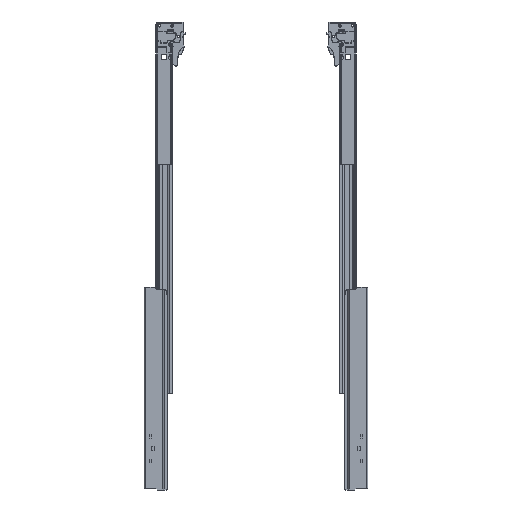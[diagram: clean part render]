
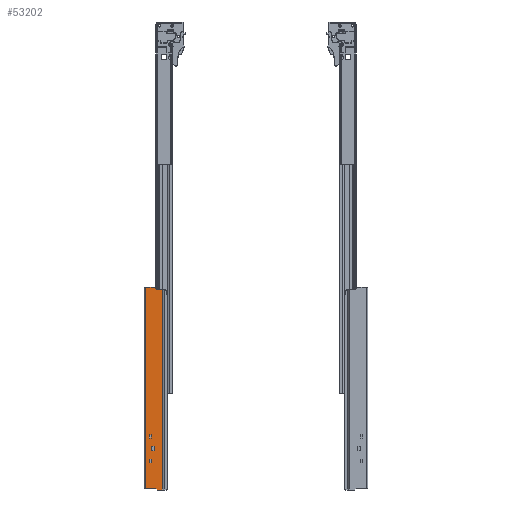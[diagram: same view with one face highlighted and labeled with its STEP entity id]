
A CAD part, front view. The second image highlights one B-rep face of the part: STEP entity #53202.
In plain terms, the highlighted planar face has unit normal (0, -1, 0).
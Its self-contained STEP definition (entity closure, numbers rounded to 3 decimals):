
#4365=FACE_BOUND('',#12797,.T.);
#4366=FACE_BOUND('',#12798,.T.);
#4367=FACE_BOUND('',#12799,.T.);
#6057=CIRCLE('',#56688,2.);
#6058=CIRCLE('',#56689,2.);
#9818=FACE_OUTER_BOUND('',#12796,.T.);
#12796=EDGE_LOOP('',(#33359,#33360,#33361,#33362,#33363,#33364,#33365,#33366,
#33367,#33368));
#12797=EDGE_LOOP('',(#33369,#33370,#33371,#33372));
#12798=EDGE_LOOP('',(#33373,#33374,#33375,#33376));
#12799=EDGE_LOOP('',(#33377,#33378,#33379,#33380));
#16511=LINE('',#77256,#18531);
#16515=LINE('',#77264,#18535);
#16518=LINE('',#77270,#18538);
#16521=LINE('',#77275,#18541);
#16523=LINE('',#77281,#18543);
#16527=LINE('',#77289,#18547);
#16530=LINE('',#77295,#18550);
#16533=LINE('',#77300,#18553);
#16535=LINE('',#77306,#18555);
#16539=LINE('',#77314,#18559);
#16542=LINE('',#77320,#18562);
#16545=LINE('',#77325,#18565);
#16547=LINE('',#77331,#18567);
#16562=LINE('',#77379,#18582);
#16570=LINE('',#77399,#18590);
#16571=LINE('',#77403,#18591);
#16572=LINE('',#77405,#18592);
#16573=LINE('',#77407,#18593);
#16574=LINE('',#77411,#18594);
#16575=LINE('',#77414,#18595);
#18531=VECTOR('',#62850,6.);
#18535=VECTOR('',#62856,3.5);
#18538=VECTOR('',#62861,6.);
#18541=VECTOR('',#62866,3.5);
#18543=VECTOR('',#62872,6.);
#18547=VECTOR('',#62878,3.5);
#18550=VECTOR('',#62883,6.);
#18553=VECTOR('',#62888,3.5);
#18555=VECTOR('',#62894,8.);
#18559=VECTOR('',#62900,5.);
#18562=VECTOR('',#62905,8.);
#18565=VECTOR('',#62910,5.);
#18567=VECTOR('',#62916,4.243);
#18582=VECTOR('',#62951,18.);
#18590=VECTOR('',#62971,360.);
#18591=VECTOR('',#62976,9.5);
#18592=VECTOR('',#62977,358.);
#18593=VECTOR('',#62978,9.672);
#18594=VECTOR('',#62981,5.414);
#18595=VECTOR('',#62984,14.172);
#20551=VERTEX_POINT('',#77254);
#20552=VERTEX_POINT('',#77255);
#20555=VERTEX_POINT('',#77263);
#20557=VERTEX_POINT('',#77269);
#20559=VERTEX_POINT('',#77279);
#20560=VERTEX_POINT('',#77280);
#20563=VERTEX_POINT('',#77288);
#20565=VERTEX_POINT('',#77294);
#20567=VERTEX_POINT('',#77304);
#20568=VERTEX_POINT('',#77305);
#20571=VERTEX_POINT('',#77313);
#20573=VERTEX_POINT('',#77319);
#20575=VERTEX_POINT('',#77329);
#20576=VERTEX_POINT('',#77330);
#20599=VERTEX_POINT('',#77378);
#20605=VERTEX_POINT('',#77398);
#20606=VERTEX_POINT('',#77402);
#20607=VERTEX_POINT('',#77404);
#20608=VERTEX_POINT('',#77406);
#20609=VERTEX_POINT('',#77408);
#20610=VERTEX_POINT('',#77410);
#20611=VERTEX_POINT('',#77412);
#25261=EDGE_CURVE('',#20551,#20552,#16511,.T.);
#25265=EDGE_CURVE('',#20552,#20555,#16515,.T.);
#25268=EDGE_CURVE('',#20555,#20557,#16518,.T.);
#25271=EDGE_CURVE('',#20557,#20551,#16521,.T.);
#25273=EDGE_CURVE('',#20559,#20560,#16523,.T.);
#25277=EDGE_CURVE('',#20560,#20563,#16527,.T.);
#25280=EDGE_CURVE('',#20563,#20565,#16530,.T.);
#25283=EDGE_CURVE('',#20565,#20559,#16533,.T.);
#25285=EDGE_CURVE('',#20567,#20568,#16535,.T.);
#25289=EDGE_CURVE('',#20568,#20571,#16539,.T.);
#25292=EDGE_CURVE('',#20571,#20573,#16542,.T.);
#25295=EDGE_CURVE('',#20573,#20567,#16545,.T.);
#25297=EDGE_CURVE('',#20575,#20576,#16547,.T.);
#25321=EDGE_CURVE('',#20599,#20575,#16562,.T.);
#25331=EDGE_CURVE('',#20605,#20599,#16570,.T.);
#25333=EDGE_CURVE('',#20606,#20576,#16571,.T.);
#25334=EDGE_CURVE('',#20607,#20606,#16572,.T.);
#25335=EDGE_CURVE('',#20607,#20608,#16573,.T.);
#25336=EDGE_CURVE('',#20609,#20608,#6057,.T.);
#25337=EDGE_CURVE('',#20609,#20610,#16574,.T.);
#25338=EDGE_CURVE('',#20611,#20610,#6058,.T.);
#25339=EDGE_CURVE('',#20605,#20611,#16575,.T.);
#33359=ORIENTED_EDGE('',*,*,#25321,.T.);
#33360=ORIENTED_EDGE('',*,*,#25297,.T.);
#33361=ORIENTED_EDGE('',*,*,#25333,.F.);
#33362=ORIENTED_EDGE('',*,*,#25334,.F.);
#33363=ORIENTED_EDGE('',*,*,#25335,.T.);
#33364=ORIENTED_EDGE('',*,*,#25336,.F.);
#33365=ORIENTED_EDGE('',*,*,#25337,.T.);
#33366=ORIENTED_EDGE('',*,*,#25338,.F.);
#33367=ORIENTED_EDGE('',*,*,#25339,.F.);
#33368=ORIENTED_EDGE('',*,*,#25331,.T.);
#33369=ORIENTED_EDGE('',*,*,#25261,.T.);
#33370=ORIENTED_EDGE('',*,*,#25265,.T.);
#33371=ORIENTED_EDGE('',*,*,#25268,.T.);
#33372=ORIENTED_EDGE('',*,*,#25271,.T.);
#33373=ORIENTED_EDGE('',*,*,#25273,.T.);
#33374=ORIENTED_EDGE('',*,*,#25277,.T.);
#33375=ORIENTED_EDGE('',*,*,#25280,.T.);
#33376=ORIENTED_EDGE('',*,*,#25283,.T.);
#33377=ORIENTED_EDGE('',*,*,#25285,.T.);
#33378=ORIENTED_EDGE('',*,*,#25289,.T.);
#33379=ORIENTED_EDGE('',*,*,#25292,.T.);
#33380=ORIENTED_EDGE('',*,*,#25295,.T.);
#49262=PLANE('',#56687);
#53202=ADVANCED_FACE('',(#9818,#4365,#4366,#4367),#49262,.T.);
#56687=AXIS2_PLACEMENT_3D('',#77401,#62974,#62975);
#56688=AXIS2_PLACEMENT_3D('',#77409,#62979,#62980);
#56689=AXIS2_PLACEMENT_3D('',#77413,#62982,#62983);
#62850=DIRECTION('',(0.,0.,1.));
#62856=DIRECTION('',(1.,0.,0.));
#62861=DIRECTION('',(0.,0.,-1.));
#62866=DIRECTION('',(-1.,0.,0.));
#62872=DIRECTION('',(0.,0.,1.));
#62878=DIRECTION('',(1.,0.,0.));
#62883=DIRECTION('',(0.,0.,-1.));
#62888=DIRECTION('',(-1.,0.,0.));
#62894=DIRECTION('',(0.,0.,1.));
#62900=DIRECTION('',(1.,0.,0.));
#62905=DIRECTION('',(0.,0.,-1.));
#62910=DIRECTION('',(-1.,0.,0.));
#62916=DIRECTION('',(0.707,0.,-0.707));
#62951=DIRECTION('',(1.,0.,0.));
#62971=DIRECTION('',(0.,0.,-1.));
#62974=DIRECTION('center_axis',(0.,-1.,0.));
#62975=DIRECTION('ref_axis',(-1.,0.,0.));
#62976=DIRECTION('',(-1.,0.,0.));
#62977=DIRECTION('',(0.,0.,-1.));
#62978=DIRECTION('',(-1.,0.,0.));
#62979=DIRECTION('center_axis',(0.,-1.,0.));
#62980=DIRECTION('ref_axis',(-0.383,0.,-0.924));
#62981=DIRECTION('',(-0.707,0.,0.707));
#62982=DIRECTION('center_axis',(0.,1.,0.));
#62983=DIRECTION('ref_axis',(0.383,0.,0.924));
#62984=DIRECTION('',(1.,0.,0.));
#77254=CARTESIAN_POINT('',(9.,0.,-270.));
#77255=CARTESIAN_POINT('',(9.,0.,-264.));
#77256=CARTESIAN_POINT('',(9.,0.,-132.));
#77263=CARTESIAN_POINT('',(12.5,0.,-264.));
#77264=CARTESIAN_POINT('',(22.5,0.,-264.));
#77269=CARTESIAN_POINT('',(12.5,0.,-270.));
#77270=CARTESIAN_POINT('',(12.5,0.,-135.));
#77275=CARTESIAN_POINT('',(20.75,0.,-270.));
#77279=CARTESIAN_POINT('',(9.,0.,-314.));
#77280=CARTESIAN_POINT('',(9.,0.,-308.));
#77281=CARTESIAN_POINT('',(9.,0.,-154.));
#77288=CARTESIAN_POINT('',(12.5,0.,-308.));
#77289=CARTESIAN_POINT('',(22.5,0.,-308.));
#77294=CARTESIAN_POINT('',(12.5,0.,-314.));
#77295=CARTESIAN_POINT('',(12.5,0.,-157.));
#77300=CARTESIAN_POINT('',(20.75,0.,-314.));
#77304=CARTESIAN_POINT('',(12.5,0.,-293.));
#77305=CARTESIAN_POINT('',(12.5,0.,-285.));
#77306=CARTESIAN_POINT('',(12.5,0.,-142.5));
#77313=CARTESIAN_POINT('',(17.5,0.,-285.));
#77314=CARTESIAN_POINT('',(25.,0.,-285.));
#77319=CARTESIAN_POINT('',(17.5,0.,-293.));
#77320=CARTESIAN_POINT('',(17.5,0.,-146.5));
#77325=CARTESIAN_POINT('',(22.5,0.,-293.));
#77329=CARTESIAN_POINT('',(20.,0.,-360.));
#77330=CARTESIAN_POINT('',(23.,0.,-363.));
#77331=CARTESIAN_POINT('',(-66.875,0.,-273.125));
#77378=CARTESIAN_POINT('',(2.,0.,-360.));
#77379=CARTESIAN_POINT('',(16.25,0.,-360.));
#77398=CARTESIAN_POINT('',(2.,0.,0.));
#77399=CARTESIAN_POINT('',(2.,0.,0.));
#77401=CARTESIAN_POINT('Origin',(32.5,0.,0.));
#77402=CARTESIAN_POINT('',(32.5,0.,-363.));
#77403=CARTESIAN_POINT('',(2.,0.,-363.));
#77404=CARTESIAN_POINT('',(32.5,0.,-5.));
#77405=CARTESIAN_POINT('',(32.5,0.,0.));
#77406=CARTESIAN_POINT('',(22.828,0.,-5.));
#77407=CARTESIAN_POINT('',(35.75,0.,-5.));
#77408=CARTESIAN_POINT('',(21.414,0.,-4.414));
#77409=CARTESIAN_POINT('Origin',(22.828,0.,
-3.));
#77410=CARTESIAN_POINT('',(17.586,0.,-0.586));
#77411=CARTESIAN_POINT('',(23.375,0.,-6.375));
#77412=CARTESIAN_POINT('',(16.172,0.,0.));
#77413=CARTESIAN_POINT('Origin',(16.172,0.,
-2.));
#77414=CARTESIAN_POINT('',(2.,0.,0.));
